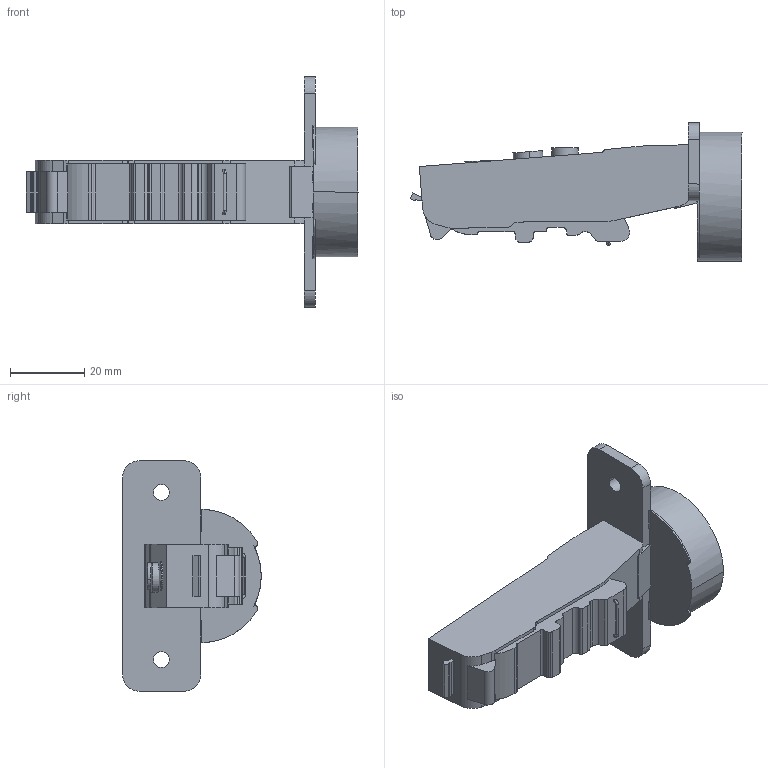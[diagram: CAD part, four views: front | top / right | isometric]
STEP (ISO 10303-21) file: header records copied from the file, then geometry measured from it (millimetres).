
FILE_DESCRIPTION (( 'STEP AP203' ), '1' );
FILE_NAME ('C81B875FAB-DTC3Dclose.STEP', '2023-06-09T05:21:26', ( 'Windows 蚚誧' ), ( '' ), 'SwSTEP 2.0', 'SolidWorks 2018', '' );
FILE_SCHEMA (( 'CONFIG_CONTROL_DESIGN' ));
Length unit declared in the file: millimetre
Products named in the file (1): C81B875FAB-DTC3Dclose
Bounding box: 89.38 x 37.33 x 62 mm (x, y, z)
Volume: 39060 mm3; surface area: 11069.6 mm2
Topology: 1 solids, 1 shells, 154 faces, 444 edges, 296 vertices
Faces by surface type: cylinder 72, plane 70, bspline 10, torus 2
Entity records: 5766 total; most frequent: CARTESIAN_POINT 1640, ORIENTED_EDGE 888, DIRECTION 824, EDGE_CURVE 444, VERTEX_POINT 296, AXIS2_PLACEMENT_3D 285, VECTOR 254, LINE 254
